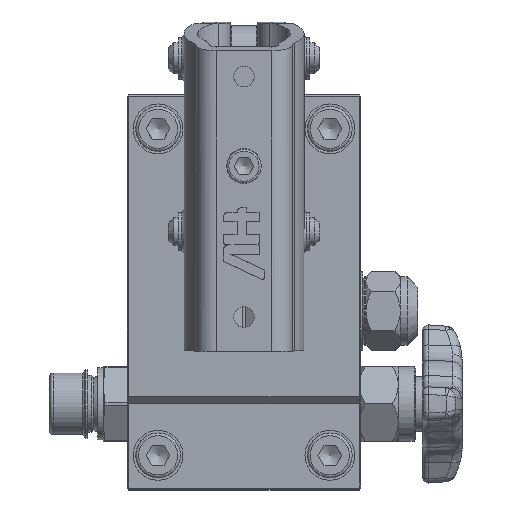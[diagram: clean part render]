
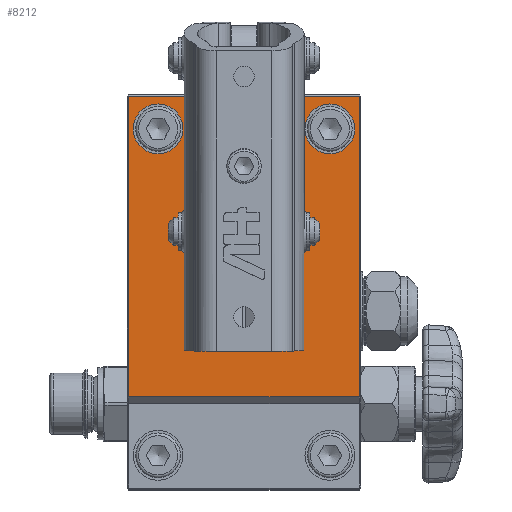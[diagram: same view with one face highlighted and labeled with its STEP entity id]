
A CAD part, top view. The second image highlights one B-rep face of the part: STEP entity #8212.
In plain terms, the highlighted planar face has unit normal (0, 0, 1).
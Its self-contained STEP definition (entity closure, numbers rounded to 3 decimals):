
#6789=CARTESIAN_POINT('',(67.5,114.5,48.));
#6790=VERTEX_POINT('',#6789);
#6823=CARTESIAN_POINT('',(0.5,114.5,48.));
#6824=VERTEX_POINT('',#6823);
#6831=CARTESIAN_POINT('',(0.5,114.5,48.));
#6832=DIRECTION('',(1.0,0.0,0.0));
#6833=VECTOR('',#6832,67.0);
#6834=LINE('',#6831,#6833);
#6835=EDGE_CURVE('',#6824,#6790,#6834,.T.);
#7293=CARTESIAN_POINT('',(67.5,27.,48.));
#7294=VERTEX_POINT('',#7293);
#7308=CARTESIAN_POINT('',(67.5,114.5,48.));
#7309=DIRECTION('',(0.0,-1.0,0.0));
#7310=VECTOR('',#7309,87.5);
#7311=LINE('',#7308,#7310);
#7312=EDGE_CURVE('',#6790,#7294,#7311,.T.);
#7426=CARTESIAN_POINT('',(0.5,27.,48.));
#7427=VERTEX_POINT('',#7426);
#7428=CARTESIAN_POINT('',(67.5,27.,48.));
#7429=DIRECTION('',(-1.0,0.0,0.0));
#7430=VECTOR('',#7429,67.);
#7431=LINE('',#7428,#7430);
#7432=EDGE_CURVE('',#7294,#7427,#7431,.T.);
#7462=CARTESIAN_POINT('',(0.5,27.,48.));
#7463=DIRECTION('',(0.0,1.0,0.0));
#7464=VECTOR('',#7463,87.5);
#7465=LINE('',#7462,#7464);
#7466=EDGE_CURVE('',#7427,#6824,#7465,.T.);
#7852=CARTESIAN_POINT('',(66.25,105.0,48.));
#7853=VERTEX_POINT('',#7852);
#7854=CARTESIAN_POINT('',(59.,105.0,48.));
#7855=DIRECTION('',(0.0,0.0,-1.0));
#7856=DIRECTION('',(-1.0,0.0,0.0));
#7857=AXIS2_PLACEMENT_3D('',#7854,#7855,#7856);
#7858=CIRCLE('',#7857,7.25);
#7859=EDGE_CURVE('',#7853,#7853,#7858,.T.);
#7900=CARTESIAN_POINT('',(16.25,105.0,48.));
#7901=VERTEX_POINT('',#7900);
#7902=CARTESIAN_POINT('',(9.,105.0,48.));
#7903=DIRECTION('',(0.0,0.0,-1.0));
#7904=DIRECTION('',(-1.0,0.0,0.0));
#7905=AXIS2_PLACEMENT_3D('',#7902,#7903,#7904);
#7906=CIRCLE('',#7905,7.25);
#7907=EDGE_CURVE('',#7901,#7901,#7906,.T.);
#8184=CARTESIAN_POINT('',(34.,57.5,48.));
#8185=DIRECTION('',(0.0,0.0,1.0));
#8186=DIRECTION('',(1.0,0.0,0.0));
#8187=AXIS2_PLACEMENT_3D('',#8184,#8185,#8186);
#8188=PLANE('',#8187);
#8189=ORIENTED_EDGE('',*,*,#7432,.F.);
#8190=ORIENTED_EDGE('',*,*,#7312,.F.);
#8191=ORIENTED_EDGE('',*,*,#6835,.F.);
#8192=ORIENTED_EDGE('',*,*,#7466,.F.);
#8193=EDGE_LOOP('',(#8189,#8190,#8191,#8192));
#8194=FACE_OUTER_BOUND('',#8193,.T.);
#8195=ORIENTED_EDGE('',*,*,#7859,.T.);
#8196=EDGE_LOOP('',(#8195));
#8197=FACE_BOUND('',#8196,.T.);
#8198=ORIENTED_EDGE('',*,*,#7907,.T.);
#8199=EDGE_LOOP('',(#8198));
#8200=FACE_BOUND('',#8199,.T.);
#8201=CARTESIAN_POINT('',(19.25,75.0,48.));
#8202=VERTEX_POINT('',#8201);
#8203=CARTESIAN_POINT('',(34.,75.0,48.));
#8204=DIRECTION('',(0.0,0.0,1.0));
#8205=DIRECTION('',(1.0,0.0,0.0));
#8206=AXIS2_PLACEMENT_3D('',#8203,#8204,#8205);
#8207=CIRCLE('',#8206,14.75);
#8208=EDGE_CURVE('',#8202,#8202,#8207,.T.);
#8209=ORIENTED_EDGE('',*,*,#8208,.F.);
#8210=EDGE_LOOP('',(#8209));
#8211=FACE_BOUND('',#8210,.T.);
#8212=ADVANCED_FACE('',(#8194,#8197,#8200,#8211),#8188,.T.);
